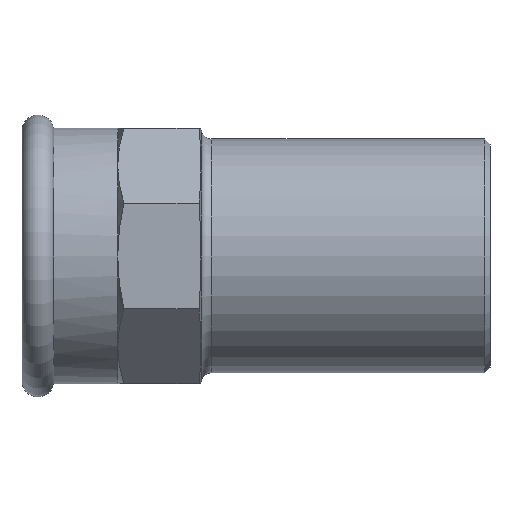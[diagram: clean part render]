
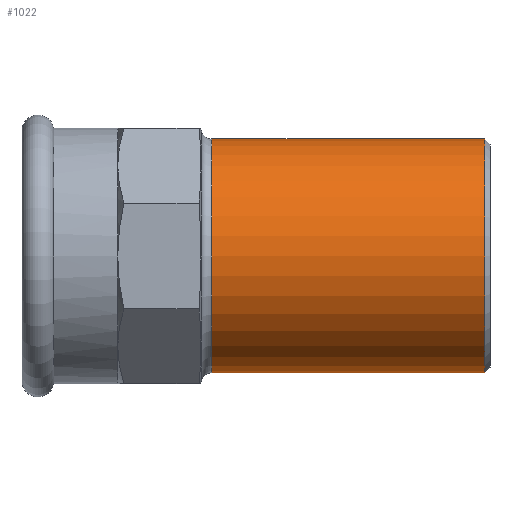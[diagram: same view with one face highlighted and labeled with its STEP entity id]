
A CAD part, left-side view. The second image highlights one B-rep face of the part: STEP entity #1022.
In plain terms, the highlighted cylindrical face has radius 11 mm (diameter 22 mm), a partial arc.
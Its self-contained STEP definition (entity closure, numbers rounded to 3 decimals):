
#80 = DIRECTION ( 'NONE',  ( 0., -1., 0. ) ) ;
#93 = LINE ( 'NONE', #823, #1083 ) ;
#124 = DIRECTION ( 'NONE',  ( 0., 0., -1. ) ) ;
#136 = CARTESIAN_POINT ( 'NONE',  ( 0., 26.161, 11. ) ) ;
#207 = FACE_OUTER_BOUND ( 'NONE', #720, .T. ) ;
#240 = CARTESIAN_POINT ( 'NONE',  ( 0., -17.811, -11. ) ) ;
#252 = ORIENTED_EDGE ( 'NONE', *, *, #502, .T. ) ;
#281 = CARTESIAN_POINT ( 'NONE',  ( 0., -17.811, 0. ) ) ;
#282 = VERTEX_POINT ( 'NONE', #831 ) ;
#296 = AXIS2_PLACEMENT_3D ( 'NONE', #386, #535, #551 ) ;
#299 = DIRECTION ( 'NONE',  ( 0., -1., 0. ) ) ;
#350 = LINE ( 'NONE', #240, #818 ) ;
#364 = VERTEX_POINT ( 'NONE', #1071 ) ;
#386 = CARTESIAN_POINT ( 'NONE',  ( 0., 0.5, 0. ) ) ;
#387 = ORIENTED_EDGE ( 'NONE', *, *, #646, .F. ) ;
#393 = CARTESIAN_POINT ( 'NONE',  ( 0., 0.5, -11. ) ) ;
#414 = ORIENTED_EDGE ( 'NONE', *, *, #877, .F. ) ;
#420 = DIRECTION ( 'NONE',  ( 0., -1., 0. ) ) ;
#451 = DIRECTION ( 'NONE',  ( 0., 0., -1. ) ) ;
#466 = CYLINDRICAL_SURFACE ( 'NONE', #536, 11. ) ;
#493 = DIRECTION ( 'NONE',  ( 0., -1., 0. ) ) ;
#502 = EDGE_CURVE ( 'NONE', #1039, #364, #575, .T. ) ;
#504 = ORIENTED_EDGE ( 'NONE', *, *, #1208, .T. ) ;
#509 = CARTESIAN_POINT ( 'NONE',  ( 0., 26.161, 0. ) ) ;
#535 = DIRECTION ( 'NONE',  ( 0., -1., 0. ) ) ;
#536 = AXIS2_PLACEMENT_3D ( 'NONE', #281, #80, #124 ) ;
#551 = DIRECTION ( 'NONE',  ( 0., 0., -1. ) ) ;
#575 = CIRCLE ( 'NONE', #1187, 11. ) ;
#646 = EDGE_CURVE ( 'NONE', #282, #1196, #1198, .T. ) ;
#720 = EDGE_LOOP ( 'NONE', ( #414, #252, #504, #387 ) ) ;
#818 = VECTOR ( 'NONE', #299, 1000. ) ;
#823 = CARTESIAN_POINT ( 'NONE',  ( 0., -17.811, 11. ) ) ;
#831 = CARTESIAN_POINT ( 'NONE',  ( 0., 0.5, 11. ) ) ;
#877 = EDGE_CURVE ( 'NONE', #1039, #282, #93, .T. ) ;
#1022 = ADVANCED_FACE ( 'NONE', ( #207 ), #466, .T. ) ;
#1039 = VERTEX_POINT ( 'NONE', #136 ) ;
#1071 = CARTESIAN_POINT ( 'NONE',  ( 0., 26.161, -11. ) ) ;
#1083 = VECTOR ( 'NONE', #420, 1000. ) ;
#1187 = AXIS2_PLACEMENT_3D ( 'NONE', #509, #493, #451 ) ;
#1196 = VERTEX_POINT ( 'NONE', #393 ) ;
#1198 = CIRCLE ( 'NONE', #296, 11. ) ;
#1208 = EDGE_CURVE ( 'NONE', #364, #1196, #350, .T. ) ;
